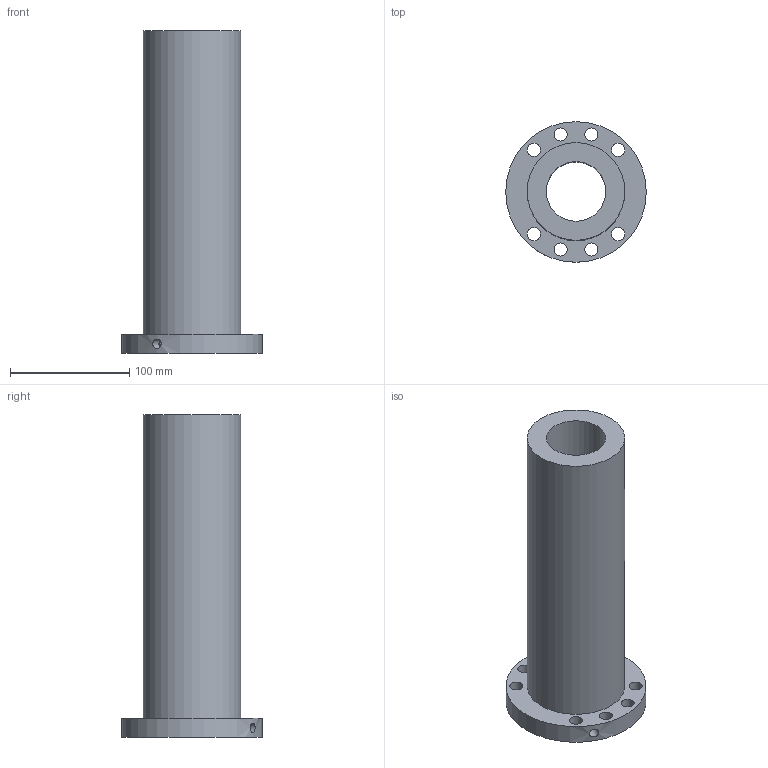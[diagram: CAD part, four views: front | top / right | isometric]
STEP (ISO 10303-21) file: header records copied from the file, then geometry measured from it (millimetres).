
FILE_DESCRIPTION(/* description */ (''),/* implementation_level */ '2;1');
FILE_NAME(/* name */ '50-35K3_635',/* time_stamp */ '2007-10-15T12:53:54+08:00',/* author */ (''),/* organization */ (''),/* preprocessor_version */ 'ST-DEVELOPER v11',/* originating_system */ 'UGS - NX 5.0',/* authorisation */ '');
FILE_SCHEMA (('CONFIG_CONTROL_DESIGN'));
Length unit declared in the file: millimetre
Products named in the file (1): 50-35K3_635
Bounding box: 118 x 118 x 271 mm (x, y, z)
Volume: 976181.8 mm3; surface area: 135685.3 mm2
Topology: 1 solids, 1 shells, 17 faces, 40 edges, 27 vertices
Faces by surface type: cylinder 13, plane 4
Full cylindrical faces by diameter (mm): 6 x1, 8 x1, 11 x8, 50 x1, 82 x1, 118 x1
Entity records: 668 total; most frequent: CARTESIAN_POINT 184, DIRECTION 84, FACE_BOUND 52, EDGE_LOOP 52, ORIENTED_EDGE 52, AXIS2_PLACEMENT_3D 42, VERTEX_POINT 26, EDGE_CURVE 26
